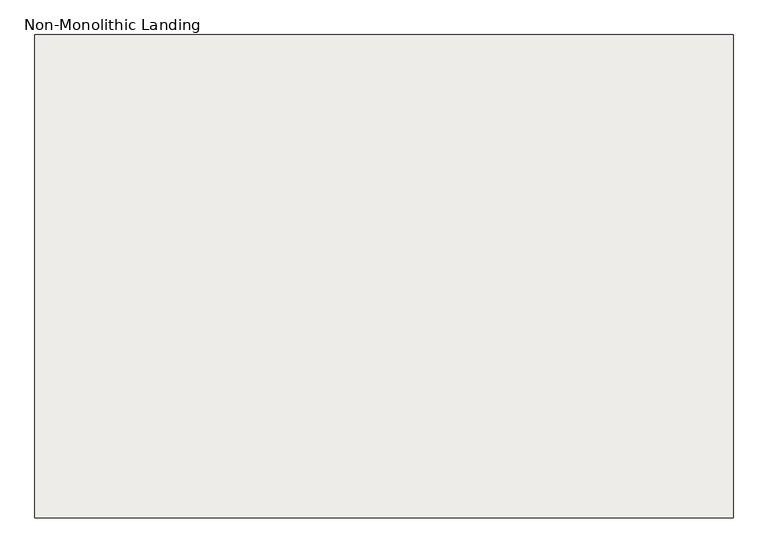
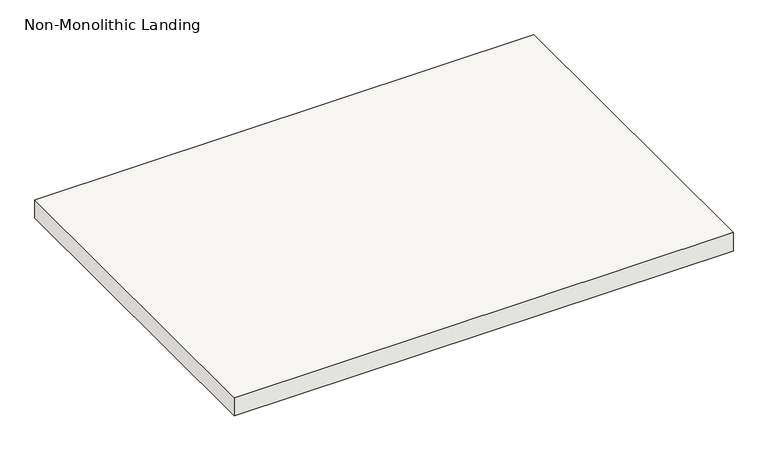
"""IFC4 building model written with IfcOpenShell, lengths in millimetres: slab geometry, Non-Monolithic Landing."""

from ifc_helpers import new_model, si_unit, frame, origin, place, context, project, spatial, polyline, outline, extrude, source, transform, mapped, element, save


def non_monolithic_landing_45a33621(model_context):
    return source(origin(), model_context, "Body", "SweptSolid", [
        extrude(outline(polyline([(35165.5266433, -1567.8469585), (36486.3266433, -1567.8469585), (36486.3266433, -2482.2469585), (35165.5266433, -2482.2469585), (35165.5266433, -1567.8469585)])), frame((0.0, 0.0, 2126.3428571), z_axis=(0.0, 0.0, 1.0), x_axis=(1.0, 0.0, 0.0)), (0.0, 0.0, 1.0), 50.8),
    ])


if __name__ == "__main__":
    model = new_model("IFC4")
    model_context = context("Model", 3, world=origin())
    ifc_project = project(units=[si_unit("LENGTHUNIT", "METRE", prefix="MILLI")], contexts=[model_context])
    site = spatial("IfcSite", under=ifc_project)
    building = spatial("IfcBuilding", under=site)
    placement = place(None, origin())
    non_monolithic_landing_shape = non_monolithic_landing_45a33621(model_context)
    element("IfcSlab", 1, ObjectType="Non-Monolithic Landing", at=placement, inside=building, context=model_context, shape_type="MappedRepresentation", body=[
        mapped(non_monolithic_landing_shape, transform((0.0, 0.0, 0.0), x_axis=(1.0, 0.0, 0.0), y_axis=(0.0, 1.0, 0.0), z_axis=(0.0, 0.0, 1.0))),
    ])
    save(model, "model.ifc")
